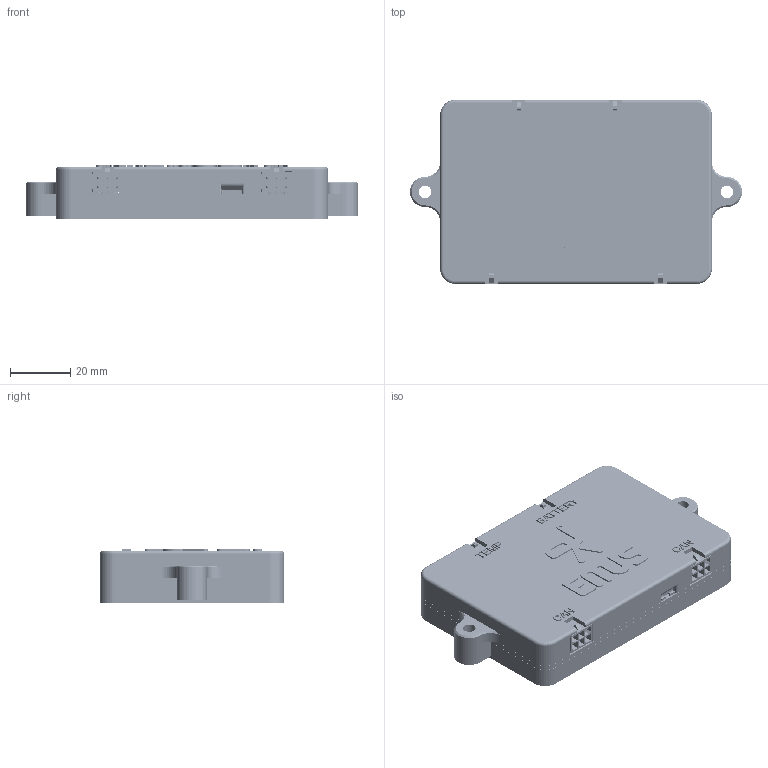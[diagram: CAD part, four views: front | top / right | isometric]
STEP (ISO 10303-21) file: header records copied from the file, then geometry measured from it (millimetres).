
FILE_DESCRIPTION(/* description */ (''),/* implementation_level */ '2;1');
FILE_NAME(/* name */ 'C:/Users/Justinas/Desktop/step/CCGM024B v2.step',/* time_stamp */ '2023-11-29T16:19:51+02:00',/* author */ (''),/* organization */ (''),/* preprocessor_version */ 'ST-DEVELOPER v18.1',/* originating_system */ 'Autodesk Translation Framework v10.10.0.1391',/* authorisation */ '');
FILE_SCHEMA (('AUTOMOTIVE_DESIGN { 1 0 10303 214 3 1 1 }'));
Products named in the file (364): CCGM024B; Board; Open CASCADE STEP translator 7.5 1.1.1; R96; R95; Q15; F1; F2; 0ZCG-0_70mm; R94; R93; R91; R88; Q14; Q10; D53; D10; U9; U8; OPTOCOUPLER TLP521-2; R87; R86; R85; U7; SOIC8; C39; C71; U6; User Library-UFQFPN48; R84; R83; R81; D52; D51; D50; D49; D48; D47; D46; D45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
Assembly tree (927 placements, depth 4):
  CCGM024B
    Board
      Open CASCADE STEP translator 7.5 1.1.1
    R96
      RES0603
    R95
      RES0603
    Q15
      SOT23
    F1
      0ZCG-0_70mm
    F2
      0ZCG-0_70mm
    R94
      8718250128  x2
        Extruded
      8718250288
        Extruded (1)
    R93
      8718250128  x2
        Extruded
      8718250288
        Extruded (1)
    R91
      RES0603
    R88
      RES0603
    Q14
      SOT23
    Q10
      SOT23
    D53
      SOD-123FL
    D10
      SOD-123FL
    U9
      OPTOCOUPLER TLP521-2
    U8
      OPTOCOUPLER TLP521-2
    R87
      RES0603
    R86
      RES0603
    R85
      RES0603
    U7
      SOIC8
    C39
      8718557168  x2
        Extruded (2)
      8718557008
        Extruded (3)
    C71
      C0805
    U6
      User Library-UFQFPN48
    R84
      RES0603
    R83
      RES0603
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Bounding box: 110 x 61.08 x 17.73 mm (x, y, z)
Volume: 56932.3 mm3; surface area: 73342.1 mm2
Topology: 889 solids, 889 shells, 18894 faces, 45415 edges, 28097 vertices
Faces by surface type: plane 12698, cylinder 3556, bspline 1662, sphere 905, torus 53, cone 20
Full cylindrical faces by diameter (mm): 0.42 x1, 0.5 x4, 0.6 x4, 0.8 x1, 0.938 x1, 1 x12, 1.02 x28, 2 x4, 2.2 x68, 3 x10, 3.015 x2, 3.02 x4, 4.2 x16, 4.417 x2
Entity records: 200347 total; most frequent: CARTESIAN_POINT 52783, ORIENTED_EDGE 28652, DIRECTION 28095, EDGE_CURVE 14326, LINE 11517, VECTOR 11517, VERTEX_POINT 9200, AXIS2_PLACEMENT_3D 8289
